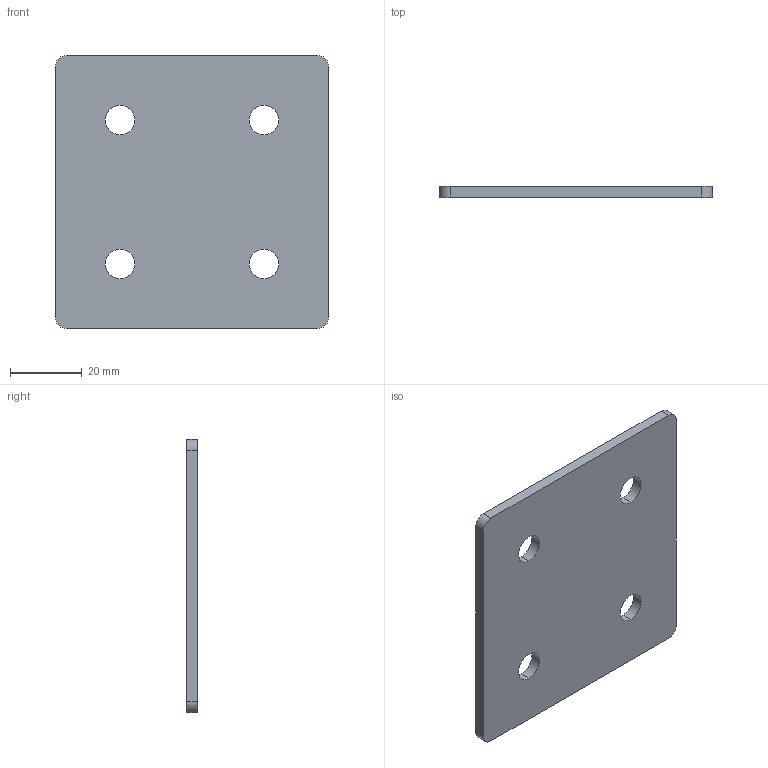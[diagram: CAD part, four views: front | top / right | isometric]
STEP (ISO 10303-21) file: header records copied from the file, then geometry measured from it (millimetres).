
FILE_DESCRIPTION (( 'STEP AP203' ), '1' );
FILE_NAME ('ﾏ-4ﾊ-40.STEP', '2016-07-23T15:01:20', ( '' ), ( '' ), 'SwSTEP 2.0', 'SolidWorks 2014', '' );
FILE_SCHEMA (( 'CONFIG_CONTROL_DESIGN' ));
Length unit declared in the file: millimetre
Products named in the file (1): ﾏ-4ﾊ-40
Bounding box: 76 x 3 x 76 mm (x, y, z)
Surface area: 12319.7 mm2 (no closed solid volume)
Topology: 0 solids, 1 shells, 18 faces, 48 edges, 32 vertices
Faces by surface type: cylinder 12, plane 6
Entity records: 669 total; most frequent: DIRECTION 110, CARTESIAN_POINT 99, ORIENTED_EDGE 96, EDGE_CURVE 48, AXIS2_PLACEMENT_3D 43, VERTEX_POINT 32, EDGE_LOOP 26, CIRCLE 24
